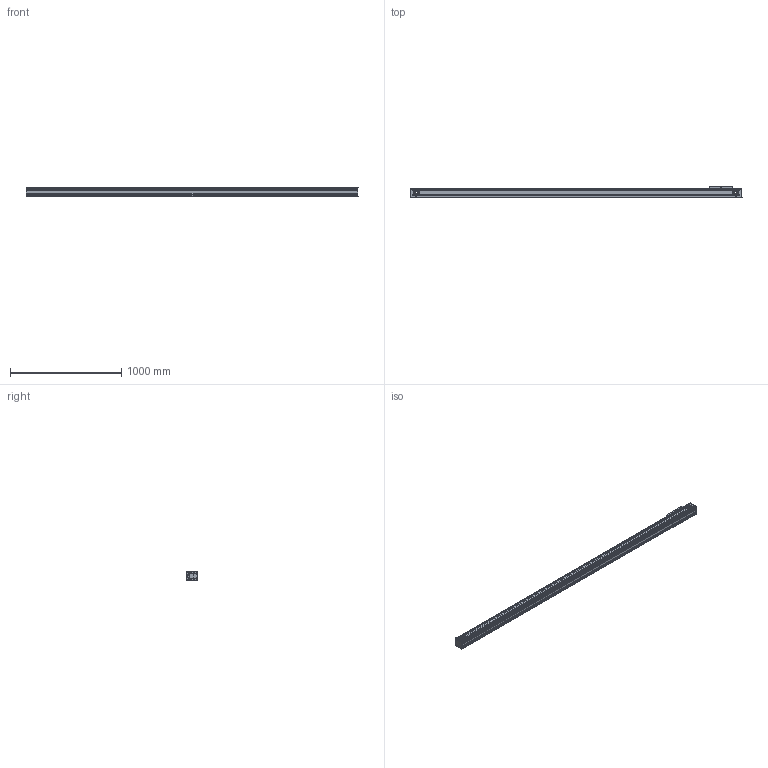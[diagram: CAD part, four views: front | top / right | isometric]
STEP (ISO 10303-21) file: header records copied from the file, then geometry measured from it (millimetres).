
FILE_DESCRIPTION (( 'STEP AP214' ), '1' );
FILE_NAME ('TKR80-2600A1-F0-R3-高速内滚轮直线模组.step', '2025-10-10T03:28:11', ( '' ), ( '' ), 'SwSTEP 2.0', 'SolidWorks 2024', '' );
FILE_SCHEMA (( 'AUTOMOTIVE_DESIGN' ));
Length unit declared in the file: millimetre
Products named in the file (3): TKR80-2600-R3-01; TKR80-2600A1-F0-R3-高速内滚轮直线模组; TKR80-R3-02
Assembly tree (2 placements, depth 2):
  TKR80-2600A1-F0-R3-高速内滚轮直线模组
    TKR80-2600-R3-01
    TKR80-R3-02
Bounding box: 2986 x 100 x 87 mm (x, y, z)
Volume: 8636216.2 mm3; surface area: 3369847.8 mm2
Topology: 1 solids, 52 shells, 2499 faces, 6775 edges, 4338 vertices
Faces by surface type: cylinder 1279, plane 770, torus 244, cone 182, sphere 24
Entity records: 120687 total; most frequent: CARTESIAN_POINT 31465, ORIENTED_EDGE 13382, DIRECTION 13179, EDGE_CURVE 6731, AXIS2_PLACEMENT_3D 5137, VERTEX_POINT 4338, LINE 2905, VECTOR 2905
